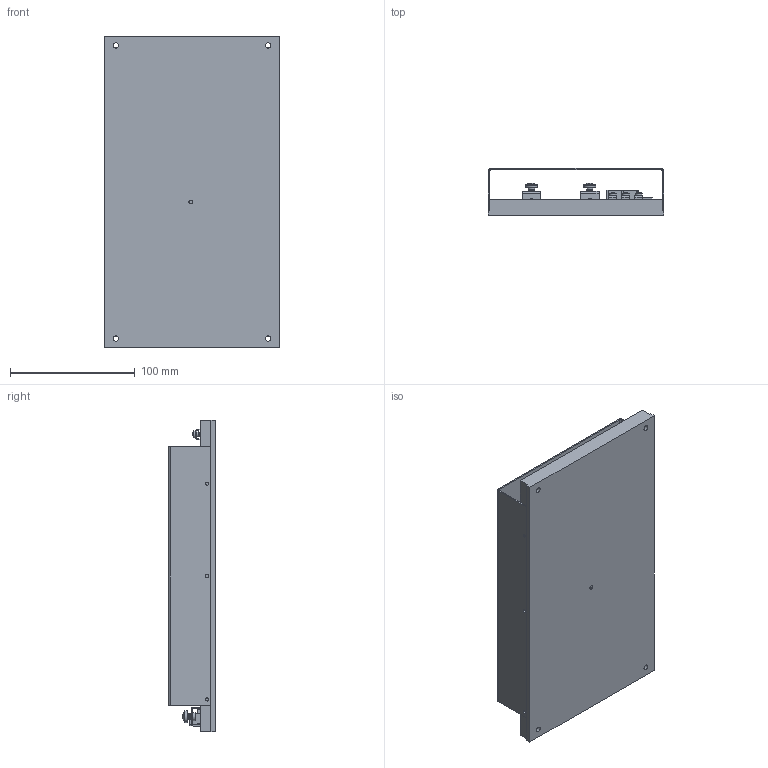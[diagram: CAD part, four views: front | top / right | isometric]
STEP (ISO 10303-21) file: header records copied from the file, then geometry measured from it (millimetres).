
FILE_DESCRIPTION(/* description */ (''),/* implementation_level */ '2;1');
FILE_NAME(/* name */ '',/* time_stamp */ '',/* author */ (''),/* organization */ (''),/* preprocessor_version */ '',/* originating_system */ '',/* authorisation */ '');
FILE_SCHEMA (('AUTOMOTIVE_DESIGN { 1 0 10303 214 3 1 1 }'));
Length unit declared in the file: inch
Products named in the file (1): JETA2000-LP_full
Bounding box: 141 x 38 x 250 mm (x, y, z)
Volume: 443731.1 mm3; surface area: 165910.5 mm2
Topology: 9 solids, 9 shells, 869 faces, 2062 edges, 1250 vertices
Faces by surface type: plane 540, cylinder 208, cone 79, torus 37, sphere 5
Full cylindrical faces by diameter (mm): 2.5 x9, 3 x13, 3.8 x1, 4 x4, 4.2 x2, 4.3 x4, 5 x6, 5.6 x3, 6.3 x2, 9.5 x2
Entity records: 24836 total; most frequent: CARTESIAN_POINT 4440, DIRECTION 4194, ORIENTED_EDGE 3796, EDGE_CURVE 1898, AXIS2_PLACEMENT_3D 1466, LINE 1262, VECTOR 1262, VERTEX_POINT 1192
